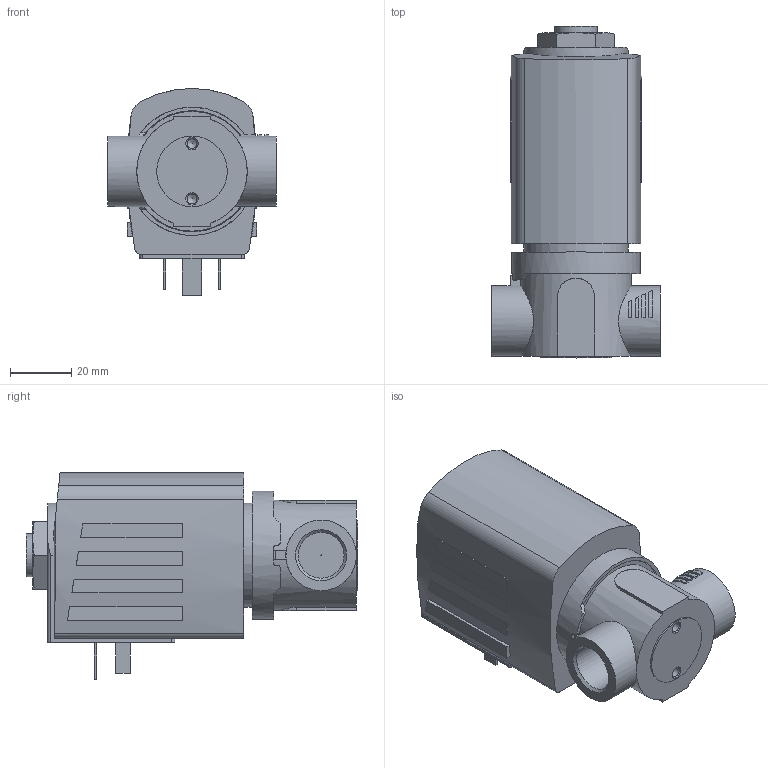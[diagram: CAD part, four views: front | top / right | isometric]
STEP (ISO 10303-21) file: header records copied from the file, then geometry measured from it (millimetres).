
FILE_DESCRIPTION(/* description */ ('STEP AP214'),/* implementation_level */ '2;1');
FILE_NAME(/* name */ '6027-B-8-FKM___FKM-MS-G_3_8-42-024___DC',/* time_stamp */ '2024-03-29T09:40:00+01:00',/* author */ ('License CC BY-ND 4.0'),/* organization */ ('CADENAS'),/* preprocessor_version */ 'ST-DEVELOPER v19.3',/* originating_system */ 'PARTsolutions',/* authorisation */ ' ');
FILE_SCHEMA (('AUTOMOTIVE_DESIGN {1 0 10303 214 3 1 1}'));
Length unit declared in the file: millimetre
Products named in the file (3): 6027-B-8-FKM / FKM-MS-G 3/8-42-024 / DC; AC10ex-42SG=k-Plan-Coil; V027-Gehaeuse G 3/8 1 1 MS G55 2 1
Assembly tree (2 placements, depth 2):
  6027-B-8-FKM / FKM-MS-G 3/8-42-024 / DC
    AC10ex-42SG=k-Plan-Coil
    V027-Gehaeuse G 3/8 1 1 MS G55 2 1
Bounding box: 55 x 108.2 x 67.5 mm (x, y, z)
Volume: 182433.6 mm3; surface area: 28074.5 mm2
Topology: 2 solids, 2 shells, 170 faces, 415 edges, 272 vertices
Faces by surface type: plane 118, cylinder 39, cone 13
Full cylindrical faces by diameter (mm): 0.2 x1, 2.013 x1, 3.242 x2, 14 x1, 14.95 x2, 23 x3, 34 x1, 36 x1, 39 x1, 39.5 x1, 41.8 x1
Entity records: 5623 total; most frequent: CARTESIAN_POINT 963, DIRECTION 823, ORIENTED_EDGE 768, EDGE_CURVE 384, AXIS2_PLACEMENT_3D 297, VERTEX_POINT 264, LINE 229, VECTOR 229
